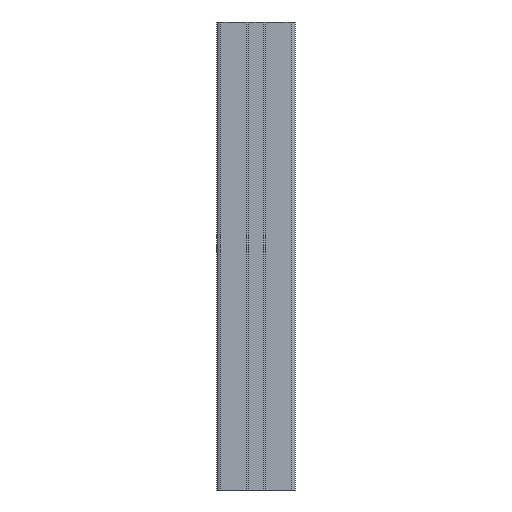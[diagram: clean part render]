
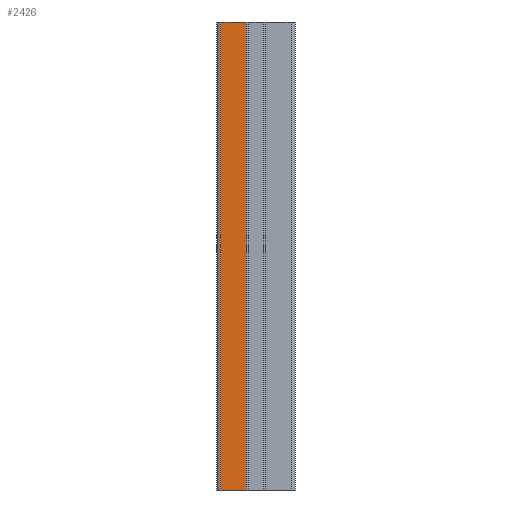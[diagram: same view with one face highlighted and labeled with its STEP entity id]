
A CAD part, left-side view. The second image highlights one B-rep face of the part: STEP entity #2426.
In plain terms, the highlighted planar face has unit normal (-1, 0, 0).
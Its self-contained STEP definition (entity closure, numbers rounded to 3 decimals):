
#88 = VECTOR ( 'NONE', #2857, 1000. ) ;
#182 = DIRECTION ( 'NONE',  ( 0., 1., 0. ) ) ;
#460 = VECTOR ( 'NONE', #1997, 1000. ) ;
#690 = DIRECTION ( 'NONE',  ( 1., 0., 0. ) ) ;
#821 = VERTEX_POINT ( 'NONE', #1069 ) ;
#972 = DIRECTION ( 'NONE',  ( 0., -1., 0. ) ) ;
#1069 = CARTESIAN_POINT ( 'NONE',  ( 4771.228, 305.201, 300. ) ) ;
#1139 = DIRECTION ( 'NONE',  ( 0., -1., 0. ) ) ;
#1187 = CARTESIAN_POINT ( 'NONE',  ( 4771.228, 305.201, 300. ) ) ;
#1269 = CARTESIAN_POINT ( 'NONE',  ( 4771.228, 288.801, 0. ) ) ;
#1489 = CARTESIAN_POINT ( 'NONE',  ( 4771.228, 305.201, 0. ) ) ;
#1643 = CARTESIAN_POINT ( 'NONE',  ( 4771.228, 305.201, 300. ) ) ;
#1698 = PLANE ( 'NONE',  #4916 ) ;
#1738 = ORIENTED_EDGE ( 'NONE', *, *, #3588, .T. ) ;
#1795 = EDGE_CURVE ( 'NONE', #821, #4933, #2179, .T. ) ;
#1936 = ORIENTED_EDGE ( 'NONE', *, *, #3068, .F. ) ;
#1951 = ORIENTED_EDGE ( 'NONE', *, *, #4750, .T. ) ;
#1997 = DIRECTION ( 'NONE',  ( 0., 0., -1. ) ) ;
#2000 = LINE ( 'NONE', #1489, #2982 ) ;
#2055 = CARTESIAN_POINT ( 'NONE',  ( 4771.228, 288.801, 300. ) ) ;
#2179 = LINE ( 'NONE', #1643, #4374 ) ;
#2426 = ADVANCED_FACE ( 'NONE', ( #4788 ), #1698, .F. ) ;
#2434 = VERTEX_POINT ( 'NONE', #4615 ) ;
#2515 = CARTESIAN_POINT ( 'NONE',  ( 4771.228, 305.201, 300. ) ) ;
#2857 = DIRECTION ( 'NONE',  ( 0., 0., -1. ) ) ;
#2867 = EDGE_LOOP ( 'NONE', ( #1738, #1936, #4412, #1951 ) ) ;
#2982 = VECTOR ( 'NONE', #972, 1000. ) ;
#3029 = LINE ( 'NONE', #2515, #460 ) ;
#3068 = EDGE_CURVE ( 'NONE', #4933, #4485, #3857, .T. ) ;
#3373 = CARTESIAN_POINT ( 'NONE',  ( 4771.228, 288.801, 300. ) ) ;
#3588 = EDGE_CURVE ( 'NONE', #2434, #4485, #2000, .T. ) ;
#3857 = LINE ( 'NONE', #3373, #88 ) ;
#4374 = VECTOR ( 'NONE', #1139, 1000. ) ;
#4412 = ORIENTED_EDGE ( 'NONE', *, *, #1795, .F. ) ;
#4485 = VERTEX_POINT ( 'NONE', #1269 ) ;
#4615 = CARTESIAN_POINT ( 'NONE',  ( 4771.228, 305.201, 0. ) ) ;
#4750 = EDGE_CURVE ( 'NONE', #821, #2434, #3029, .T. ) ;
#4788 = FACE_OUTER_BOUND ( 'NONE', #2867, .T. ) ;
#4916 = AXIS2_PLACEMENT_3D ( 'NONE', #1187, #690, #182 ) ;
#4933 = VERTEX_POINT ( 'NONE', #2055 ) ;
